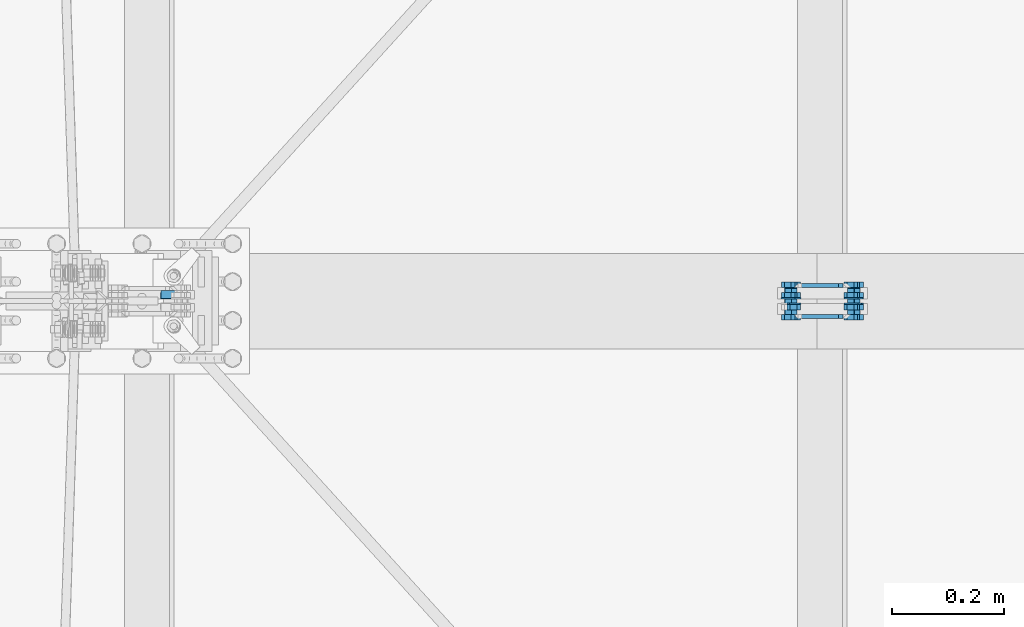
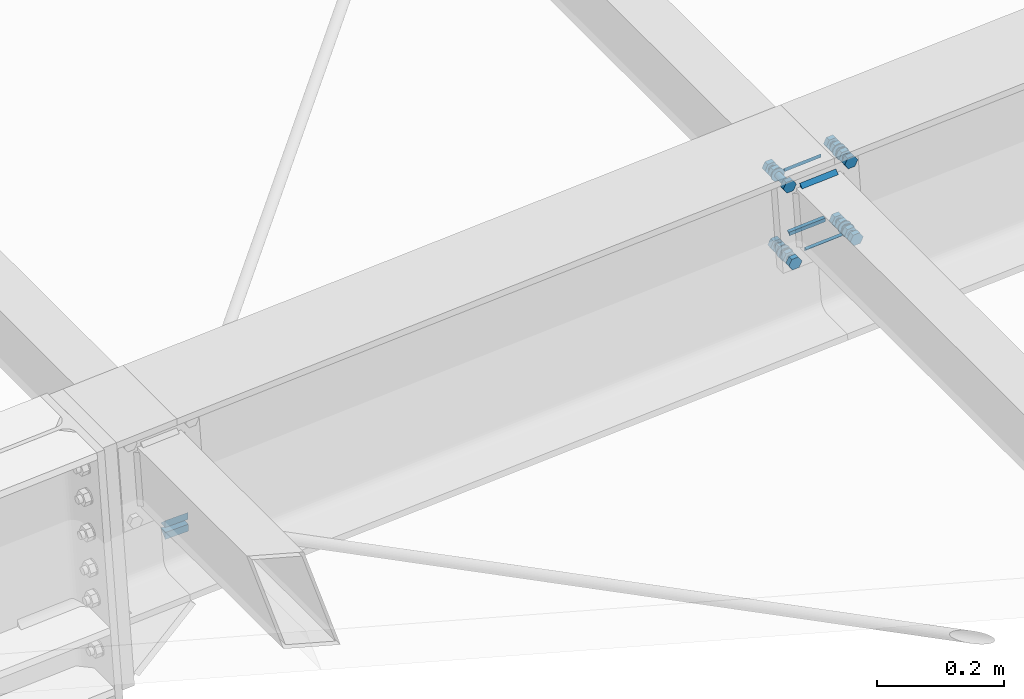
# One storey, part 58 of 72: 30 mechanical fasteners, 10 fasteners.
"""IFC4 building model written with IfcOpenShell, lengths in metres."""

from ifc_helpers import new_model, si_unit, frame, origin_with_axes, place, context, project, spatial, polyline, outline, extrude, type_object, element, save


model = new_model("IFC4")

# Units and contexts
model_context = context("Model", 3, precision=1e-05, world=origin_with_axes())
ifc_project = project(units=[si_unit("LENGTHUNIT", "METRE"), si_unit("AREAUNIT", "SQUARE_METRE"), si_unit("VOLUMEUNIT", "CUBIC_METRE"), si_unit("MASSUNIT", "GRAM", prefix="KILO"), si_unit("TIMEUNIT", "SECOND"), si_unit("PLANEANGLEUNIT", "RADIAN"), si_unit("SOLIDANGLEUNIT", "STERADIAN"), si_unit("THERMODYNAMICTEMPERATUREUNIT", "DEGREE_CELSIUS")], contexts=[model_context])

# Site, building, storey
placement_1 = place(None, origin_with_axes())
site = spatial("IfcSite", under=ifc_project, at=placement_1, Name="Italia", CompositionType="ELEMENT")
building = spatial("IfcBuilding", under=site, at=placement_1, Name="Pensilina", CompositionType="ELEMENT")
storey = spatial("IfcBuildingStorey", under=building, at=placement_1, Name="Storey 0", CompositionType="ELEMENT", Elevation=0.0)

# Fasteners
fastener_type_1 = type_object("IfcFastenerType", Name="Collegamento 0204_0605", PredefinedType="WELD")
placement_2 = place(placement_1, origin_with_axes())
fastener_1_placement = place(placement_2, origin_with_axes())
element("IfcFastener", 1, at=fastener_1_placement, inside=storey, type_object=fastener_type_1, Name="Collegamento 0204_0605", context=model_context, shape_type="SweptSolid", body=[
    extrude(outline(polyline([(0.0, 0.0, 0.0), (-0.0136957, 0.0142241, 0.0), (0.000469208, 0.0137401, 0.0), (0.0, 0.0, 0.0)])), frame((1.08428, 15.8449, 3.53989), z_axis=(-0.99951958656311, 0.0, -0.030994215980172), x_axis=(0.0, -1.0, 0.0)), (0.0, 0.0, 1.0), 0.0421003),
])
fastener_type_2 = type_object("IfcFastenerType", Name="Collegamento 0204_0605", PredefinedType="WELD")
fastener_2_placement = place(placement_2, origin_with_axes())
element("IfcFastener", 2, at=fastener_2_placement, inside=storey, type_object=fastener_type_2, Name="Collegamento 0204_0605", context=model_context, shape_type="SweptSolid", body=[
    extrude(outline(polyline([(0.0, 0.0, 0.0), (0.0146351, -0.0132563, 0.0), (0.000469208, -0.0137403, 0.0), (0.0, 0.0, 0.0)])), frame((1.04104, 15.8437, 3.57594), z_axis=(0.9995197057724, 0.0, 0.03098882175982), x_axis=(0.0, 1.0, 0.0)), (0.0, 0.0, 1.0), 0.0420999),
])
fastener_type_3 = type_object("IfcFastenerType", Name="Collegamento 0304_0303", PredefinedType="WELD")
fastener_3_placement = place(placement_2, origin_with_axes())
element("IfcFastener", 3, at=fastener_3_placement, inside=storey, type_object=fastener_type_3, Name="Collegamento 0304_0303", context=model_context, shape_type="SweptSolid", body=[
    extrude(outline(polyline([(0.0, 0.0, 0.0), (0.00717354, -0.00695801, 0.0), (0.0, -0.00695801, 0.0), (0.0, 0.0, 0.0)])), frame((2.24674, 15.8161, 3.84781), z_axis=(-0.997731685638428, 0.0, -0.067316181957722), x_axis=(0.0, -1.0, 0.0)), (0.0, 0.0, 1.0), 0.0661001),
])
fastener_type_4 = type_object("IfcFastenerType", Name="Collegamento 0304_0303", PredefinedType="WELD")
fastener_4_placement = place(placement_2, origin_with_axes())
element("IfcFastener", 4, at=fastener_4_placement, inside=storey, type_object=fastener_type_4, Name="Collegamento 0304_0303", context=model_context, shape_type="SweptSolid", body=[
    extrude(outline(polyline([(0.0, 0.0, 0.0), (-0.00717354, 0.00695801, 0.0), (0.0, 0.00695801, 0.0), (0.0, 0.0, 0.0)])), frame((2.1898, 15.8161, 3.70985), z_axis=(0.997731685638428, 0.0, 0.067316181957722), x_axis=(0.0, 1.0, 0.0)), (0.0, 0.0, 1.0), 0.0661001),
])
fastener_type_5 = type_object("IfcFastenerType", Name="Collegamento 0304_0303", PredefinedType="WELD")
fastener_5_placement = place(placement_2, origin_with_axes())
element("IfcFastener", 5, at=fastener_5_placement, inside=storey, type_object=fastener_type_5, Name="Collegamento 0304_0303", context=model_context, shape_type="SweptSolid", body=[
    extrude(outline(polyline([(0.0, 0.0, 0.0), (0.00717354, -0.00695801, 0.0), (0.0, -0.00695801, 0.0), (0.0, 0.0, 0.0)])), frame((2.24674, 15.8161, 3.84781), z_axis=(-0.997731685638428, 0.0, -0.067316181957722), x_axis=(0.0, -1.0, 0.0)), (0.0, 0.0, 1.0), 0.0661001),
])
fastener_type_6 = type_object("IfcFastenerType", Name="Collegamento 0304_0303", PredefinedType="WELD")
fastener_6_placement = place(placement_2, origin_with_axes())
element("IfcFastener", 6, at=fastener_6_placement, inside=storey, type_object=fastener_type_6, Name="Collegamento 0304_0303", context=model_context, shape_type="SweptSolid", body=[
    extrude(outline(polyline([(0.0, 0.0, 0.0), (-0.00717354, 0.00695801, 0.0), (0.0, 0.00695801, 0.0), (0.0, 0.0, 0.0)])), frame((2.1898, 15.8161, 3.70985), z_axis=(0.997731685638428, 0.0, 0.067316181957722), x_axis=(0.0, 1.0, 0.0)), (0.0, 0.0, 1.0), 0.0661001),
])

# Mechanical fasteners
mechanical_fastener_type_1 = type_object("IfcMechanicalFastenerType", Name="Collegamento 0304_0303", PredefinedType="BOLT")
mechanical_fastener_1_placement = place(placement_2, origin_with_axes())
element("IfcMechanicalFastener", 7, at=mechanical_fastener_1_placement, inside=storey, type_object=mechanical_fastener_type_1, Name="Collegamento 0304_0303", NominalDiameter=0.0119999, context=model_context, shape_type="SweptSolid", body=[
    extrude(outline(polyline([(0.0, 0.0, 0.0), (-0.0119727, -0.000808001, 0.0), (-0.0186586, 0.00915694, 0.0), (-0.0133719, 0.0199296, 0.0), (-0.00139904, 0.0207374, 0.0), (0.00528693, 0.0107725, 0.0), (0.0, 0.0, 0.0)])), frame((2.1742, 15.816, 3.68927), z_axis=(0.0, -1.0, 0.0), x_axis=(1.0, 0.0, 0.0)), (0.0, 0.0, 1.0), 0.00959969),
])
mechanical_fastener_type_2 = type_object("IfcMechanicalFastenerType", Name="Collegamento 0304_0303", PredefinedType="BOLT")
mechanical_fastener_2_placement = place(placement_2, origin_with_axes())
element("IfcMechanicalFastener", 8, at=mechanical_fastener_2_placement, inside=storey, type_object=mechanical_fastener_type_2, Name="Collegamento 0304_0303", NominalDiameter=0.012, context=model_context, shape_type="SweptSolid", body=[
    extrude(outline(polyline([(0.0, 0.0, 0.0), (-0.000204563, -0.00155282, 0.0), (-0.000803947, -0.00300002, 0.0), (-0.00175738, -0.00424266, 0.0), (-0.00300002, -0.00519609, 0.0), (-0.00444722, -0.00579548, 0.0), (-0.00600004, -0.00600004, 0.0), (-0.00755286, -0.00579548, 0.0), (-0.00900006, -0.00519609, 0.0), (-0.0102427, -0.00424266, 0.0), (-0.0111961, -0.00300002, 0.0), (-0.0117955, -0.00155282, 0.0), (-0.0120001, 0.0, 0.0), (-0.0117955, 0.00155282, 0.0), (-0.0111961, 0.00300002, 0.0), (-0.0102427, 0.00424266, 0.0), (-0.00900006, 0.00519609, 0.0), (-0.00755286, 0.00579548, 0.0), (-0.00600004, 0.00600004, 0.0), (-0.00444722, 0.00579548, 0.0), (-0.00300002, 0.00519609, 0.0), (-0.00175738, 0.00424266, 0.0), (-0.000803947, 0.00300002, 0.0), (-0.000204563, 0.00155282, 0.0), (0.0, 0.0, 0.0)])), frame((2.17351, 15.862, 3.69923), z_axis=(0.0, -1.0, 0.0), x_axis=(1.0, 0.0, 0.0)), (0.0, 0.0, 1.0), 0.0460005),
])
mechanical_fastener_type_3 = type_object("IfcMechanicalFastenerType", Name="Collegamento 0304_0303", PredefinedType="BOLT")
mechanical_fastener_3_placement = place(placement_2, origin_with_axes())
element("IfcMechanicalFastener", 9, at=mechanical_fastener_3_placement, inside=storey, type_object=mechanical_fastener_type_3, Name="Collegamento 0304_0303", NominalDiameter=0.0119999, context=model_context, shape_type="SweptSolid", body=[
    extrude(outline(polyline([(0.0, 0.0, 0.0), (-0.0119727, -0.000808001, 0.0), (-0.0186586, 0.00915694, 0.0), (-0.0133719, 0.0199296, 0.0), (-0.00139904, 0.0207374, 0.0), (0.00528693, 0.0107725, 0.0), (0.0, 0.0, 0.0)])), frame((2.1742, 15.8556, 3.68927), z_axis=(0.0, -1.0, 0.0), x_axis=(1.0, 0.0, 0.0)), (0.0, 0.0, 1.0), 0.00959969),
])
mechanical_fastener_type_4 = type_object("IfcMechanicalFastenerType", Name="Collegamento 0304_0303", PredefinedType="BOLT")
mechanical_fastener_4_placement = place(placement_2, origin_with_axes())
element("IfcMechanicalFastener", 10, at=mechanical_fastener_4_placement, inside=storey, type_object=mechanical_fastener_type_4, Name="Collegamento 0304_0303", NominalDiameter=0.024, context=model_context, shape_type="SweptSolid", body=[
    extrude(outline(polyline([(0.0, 0.0, 0.0), (-0.000408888, -0.00310588, 0.0), (-0.00160789, -0.00600004, 0.0), (-0.00351477, -0.00848532, 0.0), (-0.00600004, -0.0103922, 0.0), (-0.00889421, -0.0115912, 0.0), (-0.0120001, -0.0120001, 0.0), (-0.015106, -0.0115912, 0.0), (-0.0180001, -0.0103922, 0.0), (-0.0204854, -0.00848532, 0.0), (-0.0223923, -0.00600004, 0.0), (-0.0235913, -0.00310588, 0.0), (-0.0240002, 0.0, 0.0), (-0.0235913, 0.00310588, 0.0), (-0.0223923, 0.00600004, 0.0), (-0.0204854, 0.00848532, 0.0), (-0.0180001, 0.0103922, 0.0), (-0.015106, 0.0115912, 0.0), (-0.0120001, 0.0120001, 0.0), (-0.00889421, 0.0115912, 0.0), (-0.00600004, 0.0103922, 0.0), (-0.00351477, 0.00848532, 0.0), (-0.00160789, 0.00600004, 0.0), (-0.000408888, 0.00310588, 0.0), (0.0, 0.0, 0.0)])), frame((2.17951, 15.846, 3.69923), z_axis=(0.0, -1.0, 0.0), x_axis=(1.0, 0.0, 0.0)), (0.0, 0.0, 1.0), 0.00199986),
])
mechanical_fastener_type_5 = type_object("IfcMechanicalFastenerType", Name="Collegamento 0304_0303", PredefinedType="BOLT")
mechanical_fastener_5_placement = place(placement_2, origin_with_axes())
element("IfcMechanicalFastener", 11, at=mechanical_fastener_5_placement, inside=storey, type_object=mechanical_fastener_type_5, Name="Collegamento 0304_0303", NominalDiameter=0.0119999, context=model_context, shape_type="SweptSolid", body=[
    extrude(outline(polyline([(0.0, 0.0, 0.0), (-0.0119729, -0.000807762, 0.0), (-0.0186589, 0.00915718, 0.0), (-0.0133719, 0.0199296, 0.0), (-0.00139928, 0.0207376, 0.0), (0.00528669, 0.0107727, 0.0), (0.0, 0.0, 0.0)])), frame((2.28594, 15.816, 3.69681), z_axis=(0.0, -1.0, 0.0), x_axis=(1.0, 0.0, 0.0)), (0.0, 0.0, 1.0), 0.00959969),
])
mechanical_fastener_type_6 = type_object("IfcMechanicalFastenerType", Name="Collegamento 0304_0303", PredefinedType="BOLT")
mechanical_fastener_6_placement = place(placement_2, origin_with_axes())
element("IfcMechanicalFastener", 12, at=mechanical_fastener_6_placement, inside=storey, type_object=mechanical_fastener_type_6, Name="Collegamento 0304_0303", NominalDiameter=0.012, context=model_context, shape_type="SweptSolid", body=[
    extrude(outline(polyline([(0.0, 0.0, 0.0), (-0.000204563, -0.00155282, 0.0), (-0.000803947, -0.00300002, 0.0), (-0.00175738, -0.00424266, 0.0), (-0.00300002, -0.00519609, 0.0), (-0.00444722, -0.00579548, 0.0), (-0.00600004, -0.00600004, 0.0), (-0.00755286, -0.00579548, 0.0), (-0.00900006, -0.00519609, 0.0), (-0.0102427, -0.00424266, 0.0), (-0.0111961, -0.00300002, 0.0), (-0.0117955, -0.00155282, 0.0), (-0.0120001, 0.0, 0.0), (-0.0117955, 0.00155282, 0.0), (-0.0111961, 0.00300002, 0.0), (-0.0102427, 0.00424266, 0.0), (-0.00900006, 0.00519609, 0.0), (-0.00755286, 0.00579548, 0.0), (-0.00600004, 0.00600004, 0.0), (-0.00444722, 0.00579548, 0.0), (-0.00300002, 0.00519609, 0.0), (-0.00175738, 0.00424266, 0.0), (-0.000803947, 0.00300002, 0.0), (-0.000204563, 0.00155282, 0.0), (0.0, 0.0, 0.0)])), frame((2.28526, 15.862, 3.70677), z_axis=(0.0, -1.0, 0.0), x_axis=(1.0, 0.0, 0.0)), (0.0, 0.0, 1.0), 0.0460005),
])
mechanical_fastener_type_7 = type_object("IfcMechanicalFastenerType", Name="Collegamento 0304_0303", PredefinedType="BOLT")
mechanical_fastener_7_placement = place(placement_2, origin_with_axes())
element("IfcMechanicalFastener", 13, at=mechanical_fastener_7_placement, inside=storey, type_object=mechanical_fastener_type_7, Name="Collegamento 0304_0303", NominalDiameter=0.0119999, context=model_context, shape_type="SweptSolid", body=[
    extrude(outline(polyline([(0.0, 0.0, 0.0), (-0.0119729, -0.000807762, 0.0), (-0.0186589, 0.00915718, 0.0), (-0.0133719, 0.0199296, 0.0), (-0.00139928, 0.0207376, 0.0), (0.00528669, 0.0107727, 0.0), (0.0, 0.0, 0.0)])), frame((2.28594, 15.8556, 3.69681), z_axis=(0.0, -1.0, 0.0), x_axis=(1.0, 0.0, 0.0)), (0.0, 0.0, 1.0), 0.00959969),
])
mechanical_fastener_type_8 = type_object("IfcMechanicalFastenerType", Name="Collegamento 0304_0303", PredefinedType="BOLT")
mechanical_fastener_8_placement = place(placement_2, origin_with_axes())
element("IfcMechanicalFastener", 14, at=mechanical_fastener_8_placement, inside=storey, type_object=mechanical_fastener_type_8, Name="Collegamento 0304_0303", NominalDiameter=0.024, context=model_context, shape_type="SweptSolid", body=[
    extrude(outline(polyline([(0.0, 0.0, 0.0), (-0.000408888, -0.00310588, 0.0), (-0.00160789, -0.00600004, 0.0), (-0.00351477, -0.00848532, 0.0), (-0.00600004, -0.0103922, 0.0), (-0.00889421, -0.0115912, 0.0), (-0.0120001, -0.0120001, 0.0), (-0.015106, -0.0115912, 0.0), (-0.0180001, -0.0103922, 0.0), (-0.0204854, -0.00848532, 0.0), (-0.0223923, -0.00600004, 0.0), (-0.0235913, -0.00310588, 0.0), (-0.0240002, 0.0, 0.0), (-0.0235913, 0.00310588, 0.0), (-0.0223923, 0.00600004, 0.0), (-0.0204854, 0.00848532, 0.0), (-0.0180001, 0.0103922, 0.0), (-0.015106, 0.0115912, 0.0), (-0.0120001, 0.0120001, 0.0), (-0.00889421, 0.0115912, 0.0), (-0.00600004, 0.0103922, 0.0), (-0.00351477, 0.00848532, 0.0), (-0.00160789, 0.00600004, 0.0), (-0.000408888, 0.00310588, 0.0), (0.0, 0.0, 0.0)])), frame((2.29126, 15.846, 3.70677), z_axis=(0.0, -1.0, 0.0), x_axis=(1.0, 0.0, 0.0)), (0.0, 0.0, 1.0), 0.00199986),
])
mechanical_fastener_type_9 = type_object("IfcMechanicalFastenerType", Name="Collegamento 0304_0303", PredefinedType="BOLT")
mechanical_fastener_9_placement = place(placement_2, origin_with_axes())
element("IfcMechanicalFastener", 15, at=mechanical_fastener_9_placement, inside=storey, type_object=mechanical_fastener_type_9, Name="Collegamento 0304_0303", NominalDiameter=0.0119999, context=model_context, shape_type="SweptSolid", body=[
    extrude(outline(polyline([(0.0, 0.0, 0.0), (-0.0119727, -0.000808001, 0.0), (-0.0186586, 0.00915694, 0.0), (-0.0133719, 0.0199296, 0.0), (-0.00139904, 0.0207374, 0.0), (0.00528693, 0.0107725, 0.0), (0.0, 0.0, 0.0)])), frame((2.16397, 15.816, 3.84092), z_axis=(0.0, -1.0, 0.0), x_axis=(1.0, 0.0, 0.0)), (0.0, 0.0, 1.0), 0.00959969),
])
mechanical_fastener_type_10 = type_object("IfcMechanicalFastenerType", Name="Collegamento 0304_0303", PredefinedType="BOLT")
mechanical_fastener_10_placement = place(placement_2, origin_with_axes())
element("IfcMechanicalFastener", 16, at=mechanical_fastener_10_placement, inside=storey, type_object=mechanical_fastener_type_10, Name="Collegamento 0304_0303", NominalDiameter=0.012, context=model_context, shape_type="SweptSolid", body=[
    extrude(outline(polyline([(0.0, 0.0, 0.0), (-0.000204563, -0.00155282, 0.0), (-0.000803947, -0.00300002, 0.0), (-0.00175738, -0.00424266, 0.0), (-0.00300002, -0.00519609, 0.0), (-0.00444722, -0.00579548, 0.0), (-0.00600004, -0.00600004, 0.0), (-0.00755286, -0.00579548, 0.0), (-0.00900006, -0.00519609, 0.0), (-0.0102427, -0.00424266, 0.0), (-0.0111961, -0.00300002, 0.0), (-0.0117955, -0.00155282, 0.0), (-0.0120001, 0.0, 0.0), (-0.0117955, 0.00155282, 0.0), (-0.0111961, 0.00300002, 0.0), (-0.0102427, 0.00424266, 0.0), (-0.00900006, 0.00519609, 0.0), (-0.00755286, 0.00579548, 0.0), (-0.00600004, 0.00600004, 0.0), (-0.00444722, 0.00579548, 0.0), (-0.00300002, 0.00519609, 0.0), (-0.00175738, 0.00424266, 0.0), (-0.000803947, 0.00300002, 0.0), (-0.000204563, 0.00155282, 0.0), (0.0, 0.0, 0.0)])), frame((2.16328, 15.862, 3.85089), z_axis=(0.0, -1.0, 0.0), x_axis=(1.0, 0.0, 0.0)), (0.0, 0.0, 1.0), 0.0460005),
])
mechanical_fastener_type_11 = type_object("IfcMechanicalFastenerType", Name="Collegamento 0304_0303", PredefinedType="BOLT")
mechanical_fastener_11_placement = place(placement_2, origin_with_axes())
element("IfcMechanicalFastener", 17, at=mechanical_fastener_11_placement, inside=storey, type_object=mechanical_fastener_type_11, Name="Collegamento 0304_0303", NominalDiameter=0.0119999, context=model_context, shape_type="SweptSolid", body=[
    extrude(outline(polyline([(0.0, 0.0, 0.0), (-0.0119727, -0.000808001, 0.0), (-0.0186586, 0.00915694, 0.0), (-0.0133719, 0.0199296, 0.0), (-0.00139904, 0.0207374, 0.0), (0.00528693, 0.0107725, 0.0), (0.0, 0.0, 0.0)])), frame((2.16397, 15.8556, 3.84092), z_axis=(0.0, -1.0, 0.0), x_axis=(1.0, 0.0, 0.0)), (0.0, 0.0, 1.0), 0.00959969),
])
mechanical_fastener_type_12 = type_object("IfcMechanicalFastenerType", Name="Collegamento 0304_0303", PredefinedType="BOLT")
mechanical_fastener_12_placement = place(placement_2, origin_with_axes())
element("IfcMechanicalFastener", 18, at=mechanical_fastener_12_placement, inside=storey, type_object=mechanical_fastener_type_12, Name="Collegamento 0304_0303", NominalDiameter=0.024, context=model_context, shape_type="SweptSolid", body=[
    extrude(outline(polyline([(0.0, 0.0, 0.0), (-0.000408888, -0.00310588, 0.0), (-0.00160789, -0.00600004, 0.0), (-0.00351477, -0.00848532, 0.0), (-0.00600004, -0.0103922, 0.0), (-0.00889421, -0.0115912, 0.0), (-0.0120001, -0.0120001, 0.0), (-0.015106, -0.0115912, 0.0), (-0.0180001, -0.0103922, 0.0), (-0.0204854, -0.00848532, 0.0), (-0.0223923, -0.00600004, 0.0), (-0.0235913, -0.00310588, 0.0), (-0.0240002, 0.0, 0.0), (-0.0235913, 0.00310588, 0.0), (-0.0223923, 0.00600004, 0.0), (-0.0204854, 0.00848532, 0.0), (-0.0180001, 0.0103922, 0.0), (-0.015106, 0.0115912, 0.0), (-0.0120001, 0.0120001, 0.0), (-0.00889421, 0.0115912, 0.0), (-0.00600004, 0.0103922, 0.0), (-0.00351477, 0.00848532, 0.0), (-0.00160789, 0.00600004, 0.0), (-0.000408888, 0.00310588, 0.0), (0.0, 0.0, 0.0)])), frame((2.16928, 15.846, 3.85089), z_axis=(0.0, -1.0, 0.0), x_axis=(1.0, 0.0, 0.0)), (0.0, 0.0, 1.0), 0.00199986),
])
mechanical_fastener_type_13 = type_object("IfcMechanicalFastenerType", Name="Collegamento 0304_0303", PredefinedType="BOLT")
mechanical_fastener_13_placement = place(placement_2, origin_with_axes())
element("IfcMechanicalFastener", 19, at=mechanical_fastener_13_placement, inside=storey, type_object=mechanical_fastener_type_13, Name="Collegamento 0304_0303", NominalDiameter=0.0119999, context=model_context, shape_type="SweptSolid", body=[
    extrude(outline(polyline([(0.0, 0.0, 0.0), (-0.0119729, -0.000807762, 0.0), (-0.0186589, 0.00915718, 0.0), (-0.0133719, 0.0199296, 0.0), (-0.00139928, 0.0207376, 0.0), (0.00528669, 0.0107727, 0.0), (0.0, 0.0, 0.0)])), frame((2.27571, 15.816, 3.84846), z_axis=(0.0, -1.0, 0.0), x_axis=(1.0, 0.0, 0.0)), (0.0, 0.0, 1.0), 0.00959969),
])
mechanical_fastener_type_14 = type_object("IfcMechanicalFastenerType", Name="Collegamento 0304_0303", PredefinedType="BOLT")
mechanical_fastener_14_placement = place(placement_2, origin_with_axes())
element("IfcMechanicalFastener", 20, at=mechanical_fastener_14_placement, inside=storey, type_object=mechanical_fastener_type_14, Name="Collegamento 0304_0303", NominalDiameter=0.012, context=model_context, shape_type="SweptSolid", body=[
    extrude(outline(polyline([(0.0, 0.0, 0.0), (-0.000204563, -0.00155282, 0.0), (-0.000803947, -0.00300002, 0.0), (-0.00175738, -0.00424266, 0.0), (-0.00300002, -0.00519609, 0.0), (-0.00444722, -0.00579548, 0.0), (-0.00600004, -0.00600004, 0.0), (-0.00755286, -0.00579548, 0.0), (-0.00900006, -0.00519609, 0.0), (-0.0102427, -0.00424266, 0.0), (-0.0111961, -0.00300002, 0.0), (-0.0117955, -0.00155282, 0.0), (-0.0120001, 0.0, 0.0), (-0.0117955, 0.00155282, 0.0), (-0.0111961, 0.00300002, 0.0), (-0.0102427, 0.00424266, 0.0), (-0.00900006, 0.00519609, 0.0), (-0.00755286, 0.00579548, 0.0), (-0.00600004, 0.00600004, 0.0), (-0.00444722, 0.00579548, 0.0), (-0.00300002, 0.00519609, 0.0), (-0.00175738, 0.00424266, 0.0), (-0.000803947, 0.00300002, 0.0), (-0.000204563, 0.00155282, 0.0), (0.0, 0.0, 0.0)])), frame((2.27503, 15.862, 3.85843), z_axis=(0.0, -1.0, 0.0), x_axis=(1.0, 0.0, 0.0)), (0.0, 0.0, 1.0), 0.0460005),
])
mechanical_fastener_type_15 = type_object("IfcMechanicalFastenerType", Name="Collegamento 0304_0303", PredefinedType="BOLT")
mechanical_fastener_15_placement = place(placement_2, origin_with_axes())
element("IfcMechanicalFastener", 21, at=mechanical_fastener_15_placement, inside=storey, type_object=mechanical_fastener_type_15, Name="Collegamento 0304_0303", NominalDiameter=0.0119999, context=model_context, shape_type="SweptSolid", body=[
    extrude(outline(polyline([(0.0, 0.0, 0.0), (-0.0119729, -0.000807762, 0.0), (-0.0186589, 0.00915718, 0.0), (-0.0133719, 0.0199296, 0.0), (-0.00139928, 0.0207376, 0.0), (0.00528669, 0.0107727, 0.0), (0.0, 0.0, 0.0)])), frame((2.27571, 15.8556, 3.84846), z_axis=(0.0, -1.0, 0.0), x_axis=(1.0, 0.0, 0.0)), (0.0, 0.0, 1.0), 0.00959969),
])
mechanical_fastener_type_16 = type_object("IfcMechanicalFastenerType", Name="Collegamento 0304_0303", PredefinedType="BOLT")
mechanical_fastener_16_placement = place(placement_2, origin_with_axes())
element("IfcMechanicalFastener", 22, at=mechanical_fastener_16_placement, inside=storey, type_object=mechanical_fastener_type_16, Name="Collegamento 0304_0303", NominalDiameter=0.024, context=model_context, shape_type="SweptSolid", body=[
    extrude(outline(polyline([(0.0, 0.0, 0.0), (-0.000408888, -0.00310588, 0.0), (-0.00160789, -0.00600004, 0.0), (-0.00351477, -0.00848532, 0.0), (-0.00600004, -0.0103922, 0.0), (-0.00889421, -0.0115912, 0.0), (-0.0120001, -0.0120001, 0.0), (-0.015106, -0.0115912, 0.0), (-0.0180001, -0.0103922, 0.0), (-0.0204854, -0.00848532, 0.0), (-0.0223923, -0.00600004, 0.0), (-0.0235913, -0.00310588, 0.0), (-0.0240002, 0.0, 0.0), (-0.0235913, 0.00310588, 0.0), (-0.0223923, 0.00600004, 0.0), (-0.0204854, 0.00848532, 0.0), (-0.0180001, 0.0103922, 0.0), (-0.015106, 0.0115912, 0.0), (-0.0120001, 0.0120001, 0.0), (-0.00889421, 0.0115912, 0.0), (-0.00600004, 0.0103922, 0.0), (-0.00351477, 0.00848532, 0.0), (-0.00160789, 0.00600004, 0.0), (-0.000408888, 0.00310588, 0.0), (0.0, 0.0, 0.0)])), frame((2.28103, 15.846, 3.85843), z_axis=(0.0, -1.0, 0.0), x_axis=(1.0, 0.0, 0.0)), (0.0, 0.0, 1.0), 0.00199986),
])

# Fasteners
fastener_type_7 = type_object("IfcFastenerType", Name="Collegamento 0304_0305", PredefinedType="WELD")
fastener_7_placement = place(placement_2, origin_with_axes())
element("IfcFastener", 23, at=fastener_7_placement, inside=storey, type_object=fastener_type_7, Name="Collegamento 0304_0305", context=model_context, shape_type="SweptSolid", body=[
    extrude(outline(polyline([(0.0, 0.0, 0.0), (0.00717354, -0.00695801, 0.0), (0.0, -0.00695801, 0.0), (0.0, 0.0, 0.0)])), frame((2.18079, 15.8639, 3.84336), z_axis=(0.997731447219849, 0.0, 0.067319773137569), x_axis=(0.0, 1.0, 0.0)), (0.0, 0.0, 1.0), 0.0661001),
])
fastener_type_8 = type_object("IfcFastenerType", Name="Collegamento 0304_0305", PredefinedType="WELD")
fastener_8_placement = place(placement_2, origin_with_axes())
element("IfcFastener", 24, at=fastener_8_placement, inside=storey, type_object=fastener_type_8, Name="Collegamento 0304_0305", context=model_context, shape_type="SweptSolid", body=[
    extrude(outline(polyline([(0.0, 0.0, 0.0), (-0.00717354, 0.00695801, 0.0), (0.0, 0.00695801, 0.0), (0.0, 0.0, 0.0)])), frame((2.25575, 15.8639, 3.7143), z_axis=(-0.997731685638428, 0.0, -0.067316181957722), x_axis=(0.0, -1.0, 0.0)), (0.0, 0.0, 1.0), 0.0661001),
])
fastener_type_9 = type_object("IfcFastenerType", Name="Collegamento 0304_0305", PredefinedType="WELD")
fastener_9_placement = place(placement_2, origin_with_axes())
element("IfcFastener", 25, at=fastener_9_placement, inside=storey, type_object=fastener_type_9, Name="Collegamento 0304_0305", context=model_context, shape_type="SweptSolid", body=[
    extrude(outline(polyline([(0.0, 0.0, 0.0), (0.00717354, -0.00695801, 0.0), (0.0, -0.00695801, 0.0), (0.0, 0.0, 0.0)])), frame((2.18079, 15.8639, 3.84336), z_axis=(0.997731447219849, 0.0, 0.067319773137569), x_axis=(0.0, 1.0, 0.0)), (0.0, 0.0, 1.0), 0.0661001),
])
fastener_type_10 = type_object("IfcFastenerType", Name="Collegamento 0304_0305", PredefinedType="WELD")
fastener_10_placement = place(placement_2, origin_with_axes())
element("IfcFastener", 26, at=fastener_10_placement, inside=storey, type_object=fastener_type_10, Name="Collegamento 0304_0305", context=model_context, shape_type="SweptSolid", body=[
    extrude(outline(polyline([(0.0, 0.0, 0.0), (-0.00717354, 0.00695801, 0.0), (0.0, 0.00695801, 0.0), (0.0, 0.0, 0.0)])), frame((2.25575, 15.8639, 3.7143), z_axis=(-0.997731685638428, 0.0, -0.067316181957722), x_axis=(0.0, -1.0, 0.0)), (0.0, 0.0, 1.0), 0.0661001),
])

# Mechanical fasteners
mechanical_fastener_type_17 = type_object("IfcMechanicalFastenerType", Name="Collegamento 0304_0305", PredefinedType="BOLT")
mechanical_fastener_17_placement = place(placement_2, origin_with_axes())
element("IfcMechanicalFastener", 27, at=mechanical_fastener_17_placement, inside=storey, type_object=mechanical_fastener_type_17, Name="Collegamento 0304_0305", NominalDiameter=0.0119999, context=model_context, shape_type="SweptSolid", body=[
    extrude(outline(polyline([(0.0, 0.0, 0.0), (-0.0119729, 0.000807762, 0.0), (-0.0172596, 0.0115805, 0.0), (-0.0105736, 0.0215454, 0.0), (0.00139904, 0.0207374, 0.0), (0.00668597, 0.00996494, 0.0), (0.0, 0.0, 0.0)])), frame((2.27397, 15.864, 3.696), z_axis=(0.0, 1.0, 0.0), x_axis=(-1.0, 0.0, 0.0)), (0.0, 0.0, 1.0), 0.00959969),
])
mechanical_fastener_type_18 = type_object("IfcMechanicalFastenerType", Name="Collegamento 0304_0305", PredefinedType="BOLT")
mechanical_fastener_18_placement = place(placement_2, origin_with_axes())
element("IfcMechanicalFastener", 28, at=mechanical_fastener_18_placement, inside=storey, type_object=mechanical_fastener_type_18, Name="Collegamento 0304_0305", NominalDiameter=0.012, context=model_context, shape_type="SweptSolid", body=[
    extrude(outline(polyline([(0.0, 0.0, 0.0), (-0.000204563, -0.00155282, 0.0), (-0.000803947, -0.00300002, 0.0), (-0.00175738, -0.00424266, 0.0), (-0.00300002, -0.00519609, 0.0), (-0.00444722, -0.00579548, 0.0), (-0.00600004, -0.00600004, 0.0), (-0.00755286, -0.00579548, 0.0), (-0.00900006, -0.00519609, 0.0), (-0.0102427, -0.00424266, 0.0), (-0.0111961, -0.00300002, 0.0), (-0.0117955, -0.00155282, 0.0), (-0.0120001, 0.0, 0.0), (-0.0117955, 0.00155282, 0.0), (-0.0111961, 0.00300002, 0.0), (-0.0102427, 0.00424266, 0.0), (-0.00900006, 0.00519609, 0.0), (-0.00755286, 0.00579548, 0.0), (-0.00600004, 0.00600004, 0.0), (-0.00444722, 0.00579548, 0.0), (-0.00300002, 0.00519609, 0.0), (-0.00175738, 0.00424266, 0.0), (-0.000803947, 0.00300002, 0.0), (-0.000204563, 0.00155282, 0.0), (0.0, 0.0, 0.0)])), frame((2.27326, 15.818, 3.70677), z_axis=(0.0, 1.0, 0.0), x_axis=(-1.0, 0.0, 0.0)), (0.0, 0.0, 1.0), 0.0460005),
])
mechanical_fastener_type_19 = type_object("IfcMechanicalFastenerType", Name="Collegamento 0304_0305", PredefinedType="BOLT")
mechanical_fastener_19_placement = place(placement_2, origin_with_axes())
element("IfcMechanicalFastener", 29, at=mechanical_fastener_19_placement, inside=storey, type_object=mechanical_fastener_type_19, Name="Collegamento 0304_0305", NominalDiameter=0.0119999, context=model_context, shape_type="SweptSolid", body=[
    extrude(outline(polyline([(0.0, 0.0, 0.0), (-0.0119729, 0.000807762, 0.0), (-0.0172596, 0.0115805, 0.0), (-0.0105736, 0.0215454, 0.0), (0.00139904, 0.0207374, 0.0), (0.00668597, 0.00996494, 0.0), (0.0, 0.0, 0.0)])), frame((2.27397, 15.8244, 3.696), z_axis=(0.0, 1.0, 0.0), x_axis=(-1.0, 0.0, 0.0)), (0.0, 0.0, 1.0), 0.00959969),
])
mechanical_fastener_type_20 = type_object("IfcMechanicalFastenerType", Name="Collegamento 0304_0305", PredefinedType="BOLT")
mechanical_fastener_20_placement = place(placement_2, origin_with_axes())
element("IfcMechanicalFastener", 30, at=mechanical_fastener_20_placement, inside=storey, type_object=mechanical_fastener_type_20, Name="Collegamento 0304_0305", NominalDiameter=0.024, context=model_context, shape_type="SweptSolid", body=[
    extrude(outline(polyline([(0.0, 0.0, 0.0), (-0.000408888, -0.00310588, 0.0), (-0.00160789, -0.00600004, 0.0), (-0.00351477, -0.00848532, 0.0), (-0.00600004, -0.0103922, 0.0), (-0.00889421, -0.0115912, 0.0), (-0.0120001, -0.0120001, 0.0), (-0.015106, -0.0115912, 0.0), (-0.0180001, -0.0103922, 0.0), (-0.0204854, -0.00848532, 0.0), (-0.0223923, -0.00600004, 0.0), (-0.0235913, -0.00310588, 0.0), (-0.0240002, 0.0, 0.0), (-0.0235913, 0.00310588, 0.0), (-0.0223923, 0.00600004, 0.0), (-0.0204854, 0.00848532, 0.0), (-0.0180001, 0.0103922, 0.0), (-0.015106, 0.0115912, 0.0), (-0.0120001, 0.0120001, 0.0), (-0.00889421, 0.0115912, 0.0), (-0.00600004, 0.0103922, 0.0), (-0.00351477, 0.00848532, 0.0), (-0.00160789, 0.00600004, 0.0), (-0.000408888, 0.00310588, 0.0), (0.0, 0.0, 0.0)])), frame((2.26726, 15.834, 3.70677), z_axis=(0.0, 1.0, 0.0), x_axis=(-1.0, 0.0, 0.0)), (0.0, 0.0, 1.0), 0.00199986),
])
mechanical_fastener_type_21 = type_object("IfcMechanicalFastenerType", Name="Collegamento 0304_0305", PredefinedType="BOLT")
mechanical_fastener_21_placement = place(placement_2, origin_with_axes())
element("IfcMechanicalFastener", 31, at=mechanical_fastener_21_placement, inside=storey, type_object=mechanical_fastener_type_21, Name="Collegamento 0304_0305", NominalDiameter=0.0119999, context=model_context, shape_type="SweptSolid", body=[
    extrude(outline(polyline([(0.0, 0.0, 0.0), (-0.0119727, 0.000808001, 0.0), (-0.0172596, 0.0115805, 0.0), (-0.0105736, 0.0215454, 0.0), (0.00139928, 0.0207376, 0.0), (0.00668597, 0.00996494, 0.0), (0.0, 0.0, 0.0)])), frame((2.16223, 15.864, 3.68846), z_axis=(0.0, 1.0, 0.0), x_axis=(-1.0, 0.0, 0.0)), (0.0, 0.0, 1.0), 0.00959969),
])
mechanical_fastener_type_22 = type_object("IfcMechanicalFastenerType", Name="Collegamento 0304_0305", PredefinedType="BOLT")
mechanical_fastener_22_placement = place(placement_2, origin_with_axes())
element("IfcMechanicalFastener", 32, at=mechanical_fastener_22_placement, inside=storey, type_object=mechanical_fastener_type_22, Name="Collegamento 0304_0305", NominalDiameter=0.012, context=model_context, shape_type="SweptSolid", body=[
    extrude(outline(polyline([(0.0, 0.0, 0.0), (-0.000204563, -0.00155282, 0.0), (-0.000803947, -0.00300002, 0.0), (-0.00175738, -0.00424266, 0.0), (-0.00300002, -0.00519609, 0.0), (-0.00444722, -0.00579548, 0.0), (-0.00600004, -0.00600004, 0.0), (-0.00755286, -0.00579548, 0.0), (-0.00900006, -0.00519609, 0.0), (-0.0102427, -0.00424266, 0.0), (-0.0111961, -0.00300002, 0.0), (-0.0117955, -0.00155282, 0.0), (-0.0120001, 0.0, 0.0), (-0.0117955, 0.00155282, 0.0), (-0.0111961, 0.00300002, 0.0), (-0.0102427, 0.00424266, 0.0), (-0.00900006, 0.00519609, 0.0), (-0.00755286, 0.00579548, 0.0), (-0.00600004, 0.00600004, 0.0), (-0.00444722, 0.00579548, 0.0), (-0.00300002, 0.00519609, 0.0), (-0.00175738, 0.00424266, 0.0), (-0.000803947, 0.00300002, 0.0), (-0.000204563, 0.00155282, 0.0), (0.0, 0.0, 0.0)])), frame((2.16151, 15.818, 3.69923), z_axis=(0.0, 1.0, 0.0), x_axis=(-1.0, 0.0, 0.0)), (0.0, 0.0, 1.0), 0.0460005),
])
mechanical_fastener_type_23 = type_object("IfcMechanicalFastenerType", Name="Collegamento 0304_0305", PredefinedType="BOLT")
mechanical_fastener_23_placement = place(placement_2, origin_with_axes())
element("IfcMechanicalFastener", 33, at=mechanical_fastener_23_placement, inside=storey, type_object=mechanical_fastener_type_23, Name="Collegamento 0304_0305", NominalDiameter=0.0119999, context=model_context, shape_type="SweptSolid", body=[
    extrude(outline(polyline([(0.0, 0.0, 0.0), (-0.0119727, 0.000808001, 0.0), (-0.0172596, 0.0115805, 0.0), (-0.0105736, 0.0215454, 0.0), (0.00139928, 0.0207376, 0.0), (0.00668597, 0.00996494, 0.0), (0.0, 0.0, 0.0)])), frame((2.16223, 15.8244, 3.68846), z_axis=(0.0, 1.0, 0.0), x_axis=(-1.0, 0.0, 0.0)), (0.0, 0.0, 1.0), 0.00959969),
])
mechanical_fastener_type_24 = type_object("IfcMechanicalFastenerType", Name="Collegamento 0304_0305", PredefinedType="BOLT")
mechanical_fastener_24_placement = place(placement_2, origin_with_axes())
element("IfcMechanicalFastener", 34, at=mechanical_fastener_24_placement, inside=storey, type_object=mechanical_fastener_type_24, Name="Collegamento 0304_0305", NominalDiameter=0.024, context=model_context, shape_type="SweptSolid", body=[
    extrude(outline(polyline([(0.0, 0.0, 0.0), (-0.000408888, -0.00310588, 0.0), (-0.00160789, -0.00600004, 0.0), (-0.00351477, -0.00848532, 0.0), (-0.00600004, -0.0103922, 0.0), (-0.00889421, -0.0115912, 0.0), (-0.0120001, -0.0120001, 0.0), (-0.015106, -0.0115912, 0.0), (-0.0180001, -0.0103922, 0.0), (-0.0204854, -0.00848532, 0.0), (-0.0223923, -0.00600004, 0.0), (-0.0235913, -0.00310588, 0.0), (-0.0240002, 0.0, 0.0), (-0.0235913, 0.00310588, 0.0), (-0.0223923, 0.00600004, 0.0), (-0.0204854, 0.00848532, 0.0), (-0.0180001, 0.0103922, 0.0), (-0.015106, 0.0115912, 0.0), (-0.0120001, 0.0120001, 0.0), (-0.00889421, 0.0115912, 0.0), (-0.00600004, 0.0103922, 0.0), (-0.00351477, 0.00848532, 0.0), (-0.00160789, 0.00600004, 0.0), (-0.000408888, 0.00310588, 0.0), (0.0, 0.0, 0.0)])), frame((2.15551, 15.834, 3.69923), z_axis=(0.0, 1.0, 0.0), x_axis=(-1.0, 0.0, 0.0)), (0.0, 0.0, 1.0), 0.00199986),
])
mechanical_fastener_type_25 = type_object("IfcMechanicalFastenerType", Name="Collegamento 0304_0305", PredefinedType="BOLT")
mechanical_fastener_25_placement = place(placement_2, origin_with_axes())
element("IfcMechanicalFastener", 35, at=mechanical_fastener_25_placement, inside=storey, type_object=mechanical_fastener_type_25, Name="Collegamento 0304_0305", NominalDiameter=0.0119999, context=model_context, shape_type="SweptSolid", body=[
    extrude(outline(polyline([(0.0, 0.0, 0.0), (-0.0119729, 0.000807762, 0.0), (-0.0172596, 0.0115805, 0.0), (-0.0105736, 0.0215454, 0.0), (0.00139904, 0.0207374, 0.0), (0.00668597, 0.00996494, 0.0), (0.0, 0.0, 0.0)])), frame((2.26374, 15.864, 3.84766), z_axis=(0.0, 1.0, 0.0), x_axis=(-1.0, 0.0, 0.0)), (0.0, 0.0, 1.0), 0.00959969),
])
mechanical_fastener_type_26 = type_object("IfcMechanicalFastenerType", Name="Collegamento 0304_0305", PredefinedType="BOLT")
mechanical_fastener_26_placement = place(placement_2, origin_with_axes())
element("IfcMechanicalFastener", 36, at=mechanical_fastener_26_placement, inside=storey, type_object=mechanical_fastener_type_26, Name="Collegamento 0304_0305", NominalDiameter=0.012, context=model_context, shape_type="SweptSolid", body=[
    extrude(outline(polyline([(0.0, 0.0, 0.0), (-0.000204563, -0.00155282, 0.0), (-0.000803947, -0.00300002, 0.0), (-0.00175738, -0.00424266, 0.0), (-0.00300002, -0.00519609, 0.0), (-0.00444722, -0.00579548, 0.0), (-0.00600004, -0.00600004, 0.0), (-0.00755286, -0.00579548, 0.0), (-0.00900006, -0.00519609, 0.0), (-0.0102427, -0.00424266, 0.0), (-0.0111961, -0.00300002, 0.0), (-0.0117955, -0.00155282, 0.0), (-0.0120001, 0.0, 0.0), (-0.0117955, 0.00155282, 0.0), (-0.0111961, 0.00300002, 0.0), (-0.0102427, 0.00424266, 0.0), (-0.00900006, 0.00519609, 0.0), (-0.00755286, 0.00579548, 0.0), (-0.00600004, 0.00600004, 0.0), (-0.00444722, 0.00579548, 0.0), (-0.00300002, 0.00519609, 0.0), (-0.00175738, 0.00424266, 0.0), (-0.000803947, 0.00300002, 0.0), (-0.000204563, 0.00155282, 0.0), (0.0, 0.0, 0.0)])), frame((2.26303, 15.818, 3.85843), z_axis=(0.0, 1.0, 0.0), x_axis=(-1.0, 0.0, 0.0)), (0.0, 0.0, 1.0), 0.0460005),
])
mechanical_fastener_type_27 = type_object("IfcMechanicalFastenerType", Name="Collegamento 0304_0305", PredefinedType="BOLT")
mechanical_fastener_27_placement = place(placement_2, origin_with_axes())
element("IfcMechanicalFastener", 37, at=mechanical_fastener_27_placement, inside=storey, type_object=mechanical_fastener_type_27, Name="Collegamento 0304_0305", NominalDiameter=0.0119999, context=model_context, shape_type="SweptSolid", body=[
    extrude(outline(polyline([(0.0, 0.0, 0.0), (-0.0119729, 0.000807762, 0.0), (-0.0172596, 0.0115805, 0.0), (-0.0105736, 0.0215454, 0.0), (0.00139904, 0.0207374, 0.0), (0.00668597, 0.00996494, 0.0), (0.0, 0.0, 0.0)])), frame((2.26374, 15.8244, 3.84766), z_axis=(0.0, 1.0, 0.0), x_axis=(-1.0, 0.0, 0.0)), (0.0, 0.0, 1.0), 0.00959969),
])
mechanical_fastener_type_28 = type_object("IfcMechanicalFastenerType", Name="Collegamento 0304_0305", PredefinedType="BOLT")
mechanical_fastener_28_placement = place(placement_2, origin_with_axes())
element("IfcMechanicalFastener", 38, at=mechanical_fastener_28_placement, inside=storey, type_object=mechanical_fastener_type_28, Name="Collegamento 0304_0305", NominalDiameter=0.024, context=model_context, shape_type="SweptSolid", body=[
    extrude(outline(polyline([(0.0, 0.0, 0.0), (-0.000408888, -0.00310588, 0.0), (-0.00160789, -0.00600004, 0.0), (-0.00351477, -0.00848532, 0.0), (-0.00600004, -0.0103922, 0.0), (-0.00889421, -0.0115912, 0.0), (-0.0120001, -0.0120001, 0.0), (-0.015106, -0.0115912, 0.0), (-0.0180001, -0.0103922, 0.0), (-0.0204854, -0.00848532, 0.0), (-0.0223923, -0.00600004, 0.0), (-0.0235913, -0.00310588, 0.0), (-0.0240002, 0.0, 0.0), (-0.0235913, 0.00310588, 0.0), (-0.0223923, 0.00600004, 0.0), (-0.0204854, 0.00848532, 0.0), (-0.0180001, 0.0103922, 0.0), (-0.015106, 0.0115912, 0.0), (-0.0120001, 0.0120001, 0.0), (-0.00889421, 0.0115912, 0.0), (-0.00600004, 0.0103922, 0.0), (-0.00351477, 0.00848532, 0.0), (-0.00160789, 0.00600004, 0.0), (-0.000408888, 0.00310588, 0.0), (0.0, 0.0, 0.0)])), frame((2.25703, 15.834, 3.85843), z_axis=(0.0, 1.0, 0.0), x_axis=(-1.0, 0.0, 0.0)), (0.0, 0.0, 1.0), 0.00199986),
])
mechanical_fastener_type_29 = type_object("IfcMechanicalFastenerType", Name="Collegamento 0304_0305", PredefinedType="BOLT")
mechanical_fastener_29_placement = place(placement_2, origin_with_axes())
element("IfcMechanicalFastener", 39, at=mechanical_fastener_29_placement, inside=storey, type_object=mechanical_fastener_type_29, Name="Collegamento 0304_0305", NominalDiameter=0.0119999, context=model_context, shape_type="SweptSolid", body=[
    extrude(outline(polyline([(0.0, 0.0, 0.0), (-0.0119727, 0.000808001, 0.0), (-0.0172596, 0.0115805, 0.0), (-0.0105736, 0.0215454, 0.0), (0.00139928, 0.0207376, 0.0), (0.00668597, 0.00996494, 0.0), (0.0, 0.0, 0.0)])), frame((2.15199, 15.864, 3.84012), z_axis=(0.0, 1.0, 0.0), x_axis=(-1.0, 0.0, 0.0)), (0.0, 0.0, 1.0), 0.00959969),
])
mechanical_fastener_type_30 = type_object("IfcMechanicalFastenerType", Name="Collegamento 0304_0305", PredefinedType="BOLT")
mechanical_fastener_30_placement = place(placement_2, origin_with_axes())
element("IfcMechanicalFastener", 40, at=mechanical_fastener_30_placement, inside=storey, type_object=mechanical_fastener_type_30, Name="Collegamento 0304_0305", NominalDiameter=0.012, context=model_context, shape_type="SweptSolid", body=[
    extrude(outline(polyline([(0.0, 0.0, 0.0), (-0.000204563, -0.00155282, 0.0), (-0.000803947, -0.00300002, 0.0), (-0.00175738, -0.00424266, 0.0), (-0.00300002, -0.00519609, 0.0), (-0.00444722, -0.00579548, 0.0), (-0.00600004, -0.00600004, 0.0), (-0.00755286, -0.00579548, 0.0), (-0.00900006, -0.00519609, 0.0), (-0.0102427, -0.00424266, 0.0), (-0.0111961, -0.00300002, 0.0), (-0.0117955, -0.00155282, 0.0), (-0.0120001, 0.0, 0.0), (-0.0117955, 0.00155282, 0.0), (-0.0111961, 0.00300002, 0.0), (-0.0102427, 0.00424266, 0.0), (-0.00900006, 0.00519609, 0.0), (-0.00755286, 0.00579548, 0.0), (-0.00600004, 0.00600004, 0.0), (-0.00444722, 0.00579548, 0.0), (-0.00300002, 0.00519609, 0.0), (-0.00175738, 0.00424266, 0.0), (-0.000803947, 0.00300002, 0.0), (-0.000204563, 0.00155282, 0.0), (0.0, 0.0, 0.0)])), frame((2.15128, 15.818, 3.85089), z_axis=(0.0, 1.0, 0.0), x_axis=(-1.0, 0.0, 0.0)), (0.0, 0.0, 1.0), 0.0460005),
])

save(model, "model.ifc")
